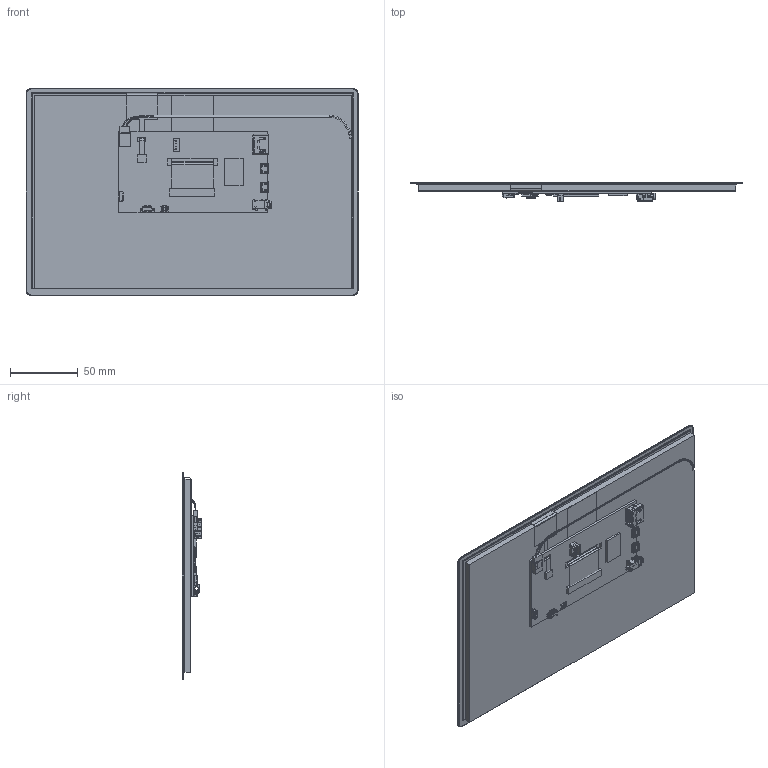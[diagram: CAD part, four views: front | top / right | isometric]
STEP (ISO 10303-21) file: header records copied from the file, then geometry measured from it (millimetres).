
FILE_DESCRIPTION((''),'2;1');
FILE_NAME('10_1HP-CAPQLED-SKU19905_ASM_7_ASM','2025-04-02T11:03:49',('ag'),(''),'CREO PARAMETRIC BY PTC INC, 2021063','CREO PARAMETRIC BY PTC INC, 2021063','');
FILE_SCHEMA(('CONFIG_CONTROL_DESIGN','SHAPE_APPEARANCE_LAYERS_GROUPS'));
Products named in the file (18): YT101IJKXL001-B-1280X720_4; 10_1HP-1280X720-TP_4; 10_1HP-CAPQLED-PCB_4; HDMI-J1_47151-0001_61277A9B_1; USB-J4_10118194_606F1A_1; SWITCH-7X3_3X3_5_3; HP_SMT_2_1; HP_SMT_2_2; HP_SMT_2_ASM; J3_USER_LIBRARY-SM02B-BHSS-1-TB; HP2_0-4PIN-SMT-00_2; HP1_25MMX4PIN-SMT_2; 60PIN-FPC-CONNECTOR_2; 6PIN-FPC-CONNECTOR_2; RTD2660H_2; BUTTON-5X5X1_5_1; 10_1HP-CAPQLED-PCBA_ASM_3_ASM; 10_1HP-CAPQLED-SKU19905_ASM_7_ASM
Assembly tree (18 placements, depth 4):
  10_1HP-CAPQLED-SKU19905_ASM_7_ASM
    YT101IJKXL001-B-1280X720_4
    10_1HP-1280X720-TP_4
    10_1HP-CAPQLED-PCBA_ASM_3_ASM
      10_1HP-CAPQLED-PCB_4
      HDMI-J1_47151-0001_61277A9B_1
      USB-J4_10118194_606F1A_1  x2
      SWITCH-7X3_3X3_5_3
      HP_SMT_2_ASM
        HP_SMT_2_1
        HP_SMT_2_2
      J3_USER_LIBRARY-SM02B-BHSS-1-TB
      HP2_0-4PIN-SMT-00_2
      HP1_25MMX4PIN-SMT_2
      60PIN-FPC-CONNECTOR_2
      6PIN-FPC-CONNECTOR_2
      RTD2660H_2
      BUTTON-5X5X1_5_1
Bounding box: 245.8 x 14.38 x 153.58 mm (x, y, z)
Volume: 207452.9 mm3; surface area: 173963.4 mm2
Topology: 14 solids, 1283 shells, 3656 faces, 13947 edges, 11555 vertices
Faces by surface type: plane 2605, cylinder 940, bspline 32, sphere 25, cone 24, extrusion 20, torus 10
Entity records: 137622 total; most frequent: CARTESIAN_POINT 27747, ORIENTED_EDGE 17164, DIRECTION 17085, EDGE_CURVE 10359, VECTOR 8147, LINE 8137, VERTEX_POINT 8001, AXIS2_PLACEMENT_3D 4469
